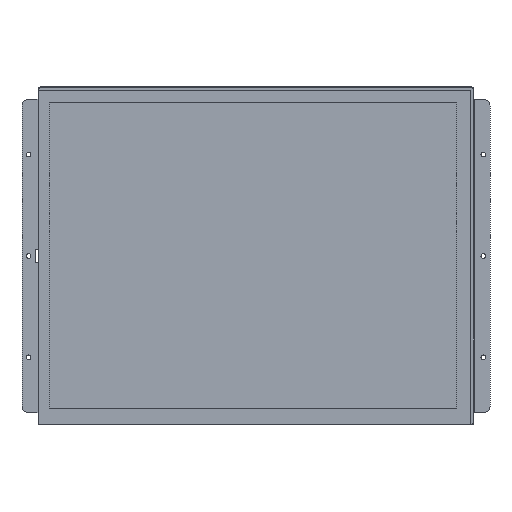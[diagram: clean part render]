
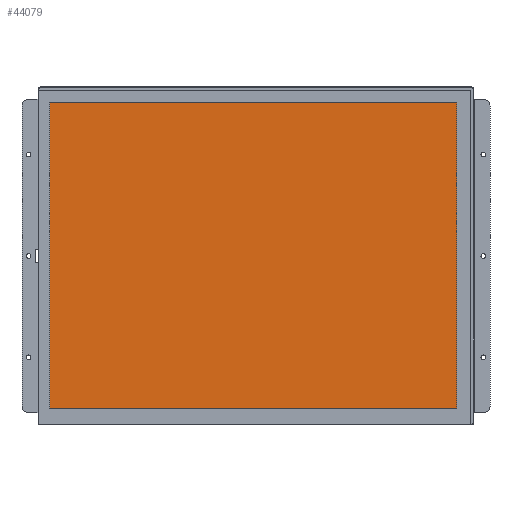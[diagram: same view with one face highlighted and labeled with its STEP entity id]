
A CAD part, front view. The second image highlights one B-rep face of the part: STEP entity #44079.
In plain terms, the highlighted planar face has unit normal (0, -1, 0).
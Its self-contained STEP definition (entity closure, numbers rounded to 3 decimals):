
#17410=DIRECTION('',(0.,0.,1.));
#17411=VECTOR('',#17410,229.5);
#17412=CARTESIAN_POINT('',(150.75,-15.4,-114.75));
#17413=LINE('',#17412,#17411);
#17414=DIRECTION('',(1.,0.,0.));
#17415=VECTOR('',#17414,305.5);
#17416=CARTESIAN_POINT('',(-154.75,-15.4,-114.75));
#17417=LINE('',#17416,#17415);
#17418=DIRECTION('',(0.,0.,-1.));
#17419=VECTOR('',#17418,229.5);
#17420=CARTESIAN_POINT('',(-154.75,-15.4,114.75));
#17421=LINE('',#17420,#17419);
#17422=DIRECTION('',(-1.,0.,0.));
#17423=VECTOR('',#17422,305.5);
#17424=CARTESIAN_POINT('',(150.75,-15.4,114.75));
#17425=LINE('',#17424,#17423);
#32364=CARTESIAN_POINT('',(150.75,-15.4,-114.75));
#32365=CARTESIAN_POINT('',(150.75,-15.4,114.75));
#32366=VERTEX_POINT('',#32364);
#32367=VERTEX_POINT('',#32365);
#32368=CARTESIAN_POINT('',(-154.75,-15.4,114.75));
#32369=VERTEX_POINT('',#32368);
#32370=CARTESIAN_POINT('',(-154.75,-15.4,-114.75));
#32371=VERTEX_POINT('',#32370);
#44068=CARTESIAN_POINT('',(-163.25,-15.4,124.25));
#44069=DIRECTION('',(0.,-1.,0.));
#44070=DIRECTION('',(1.,0.,0.));
#44071=AXIS2_PLACEMENT_3D('',#44068,#44069,#44070);
#44072=PLANE('',#44071);
#44073=ORIENTED_EDGE('',*,*,#44020,.F.);
#44074=ORIENTED_EDGE('',*,*,#44035,.F.);
#44075=ORIENTED_EDGE('',*,*,#44049,.F.);
#44076=ORIENTED_EDGE('',*,*,#44062,.F.);
#44077=EDGE_LOOP('',(#44073,#44074,#44075,#44076));
#44078=FACE_OUTER_BOUND('',#44077,.F.);
#44020=EDGE_CURVE('',#32366,#32367,#17413,.T.);
#44035=EDGE_CURVE('',#32371,#32366,#17417,.T.);
#44049=EDGE_CURVE('',#32369,#32371,#17421,.T.);
#44062=EDGE_CURVE('',#32367,#32369,#17425,.T.);
#44079=ADVANCED_FACE('',(#44078),#44072,.T.);
